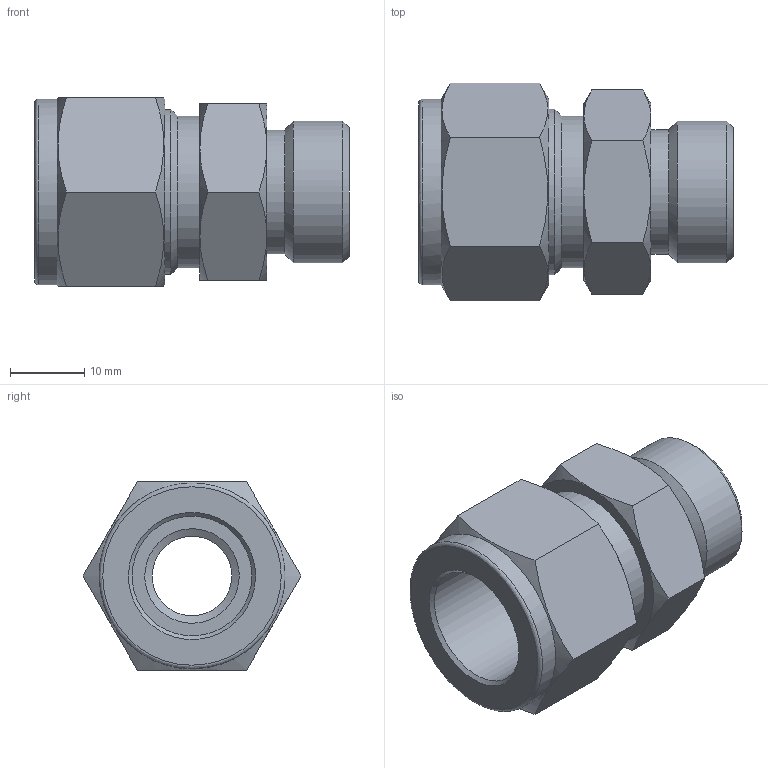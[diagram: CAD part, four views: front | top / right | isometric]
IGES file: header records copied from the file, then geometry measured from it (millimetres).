
Global section: file name: SSMC-10-8U; native system: Autodesk Inventor 2016; preprocessor: unknown; author: DESIGNPC2; date: 20160123.145051; units: millimetre
Bounding box: 42.33 x 29.33 x 25.4 mm (x, y, z)
Volume: 11715.3 mm3; surface area: 6196 mm2
Topology: 1 solids, 1 shells, 47 faces, 120 edges, 79 vertices
Faces by surface type: bspline 47
